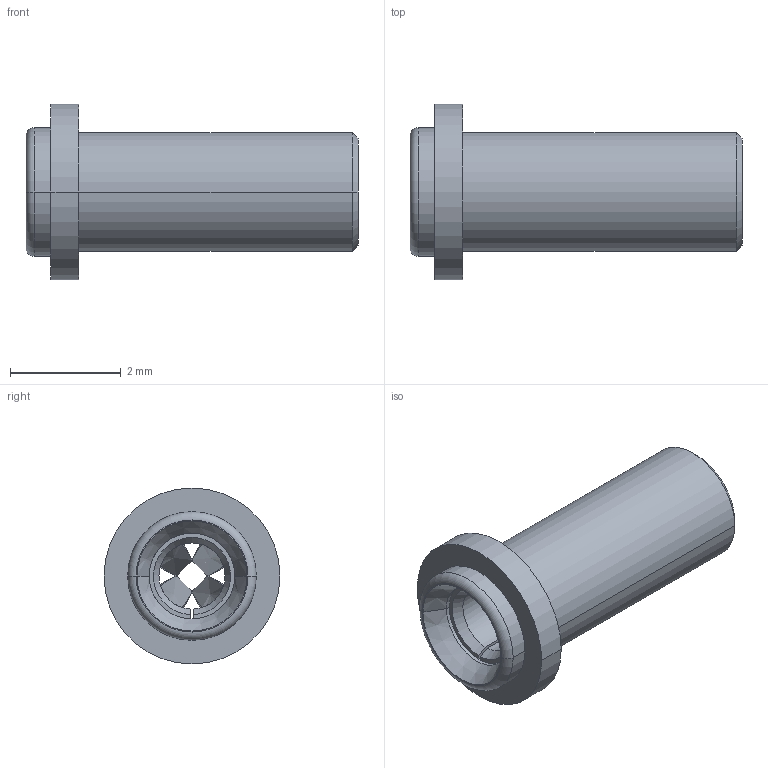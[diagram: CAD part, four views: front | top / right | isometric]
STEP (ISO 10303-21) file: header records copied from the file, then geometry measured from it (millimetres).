
FILE_DESCRIPTION((''),'2;1');
FILE_NAME('H3185-XX_ASM','2013-01-08T',('wbourne'),(''),'PRO/ENGINEER BY PARAMETRIC TECHNOLOGY CORPORATION, 2011490','PRO/ENGINEER BY PARAMETRIC TECHNOLOGY CORPORATION, 2011490','');
FILE_SCHEMA(('CONFIG_CONTROL_DESIGN','SHAPE_APPEARANCE_LAYERS_GROUPS'));
Length unit declared in the file: millimetre
Products named in the file (3): H3459-XX; Y3196; H3185-XX_ASM
Assembly tree (2 placements, depth 2):
  H3185-XX_ASM
    H3459-XX
    Y3196
Bounding box: 6 x 3.18 x 3.18 mm (x, y, z)
Volume: 14 mm3; surface area: 102.5 mm2
Topology: 2 solids, 2 shells, 57 faces, 131 edges, 80 vertices
Faces by surface type: bspline 24, plane 16, cylinder 10, cone 5, torus 2
Entity records: 2687 total; most frequent: CARTESIAN_POINT 1003, ORIENTED_EDGE 262, DIRECTION 218, PRESENTATION_STYLE_ASSIGNMENT 133, STYLED_ITEM 133, CURVE_STYLE 131, EDGE_CURVE 131, AXIS2_PLACEMENT_3D 83
